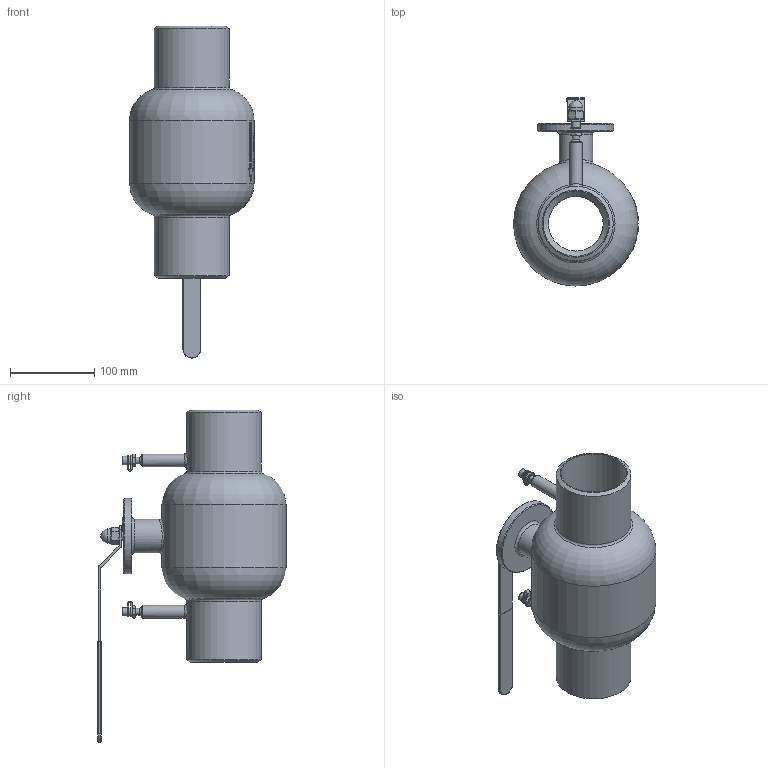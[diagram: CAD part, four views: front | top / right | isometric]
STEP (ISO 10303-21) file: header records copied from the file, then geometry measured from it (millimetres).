
FILE_DESCRIPTION(('STEP AP214'), '1');
FILE_NAME('BVR3232P-SP-W-H Êðàí øàðîâîé ðåãóëèðóþùèé DN.ru Äó80 Py16', '', ('UNSPECIFIED'), ('UNSPECIFIED'), 'C3D Converter', 'C3D Toolkit', '');
FILE_SCHEMA(('AUTOMOTIVE_DESIGN { 1 0 10303 214 3 1 1}'));
Length unit declared in the file: millimetre
Products named in the file (1): BVR3232P-SP-W-H
Bounding box: 148.45 x 224 x 395 mm (x, y, z)
Volume: 2088817.9 mm3; surface area: 230863.6 mm2
Topology: 1 solids, 1 shells, 844 faces, 2171 edges, 1439 vertices
Faces by surface type: plane 407, bspline 194, extrusion 127, cylinder 88, cone 18, torus 9, sphere 1
Full cylindrical faces by diameter (mm): 8 x10, 10 x4, 12 x1, 15 x2, 17 x1, 40 x1, 65 x1, 78 x2, 89 x2, 90 x1, 148 x1
Entity records: 90125 total; most frequent: CARTESIAN_POINT 70313, ORIENTED_EDGE 4232, DIRECTION 2710, EDGE_CURVE 2116, VERTEX_POINT 1437, VECTOR 1176, LINE 1049, EDGE_LOOP 1013
